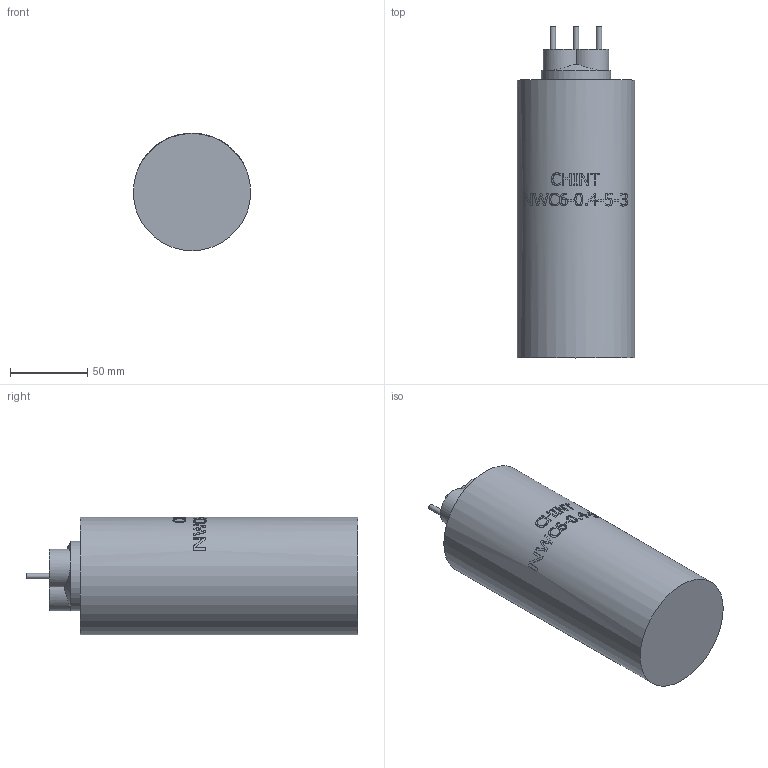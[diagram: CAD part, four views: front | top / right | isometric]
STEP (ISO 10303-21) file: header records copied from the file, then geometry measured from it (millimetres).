
FILE_DESCRIPTION(/* description */ (''),/* implementation_level */ '2;1');
FILE_NAME(/* name */ 'D:\CHINT3\\X2\041A043E043D04340435043D044104300442043E0440044B\X0\\NWC6-0.4-5-3.stp',/* time_stamp */ '2017-12-13T20:52:02+03:00',/* author */ ('RSagdiev'),/* organization */ (''),/* preprocessor_version */ 'ST-DEVELOPER v16.5',/* originating_system */ 'Autodesk Inventor 2017',/* authorisation */ '');
FILE_SCHEMA (('AUTOMOTIVE_DESIGN { 1 0 10303 214 3 1 1 }'));
Length unit declared in the file: millimetre
Products named in the file (1): NWC6-0.4-5-3
Bounding box: 76 x 215 x 76.1 mm (x, y, z)
Volume: 841360.6 mm3; surface area: 58806.9 mm2
Topology: 5 solids, 5 shells, 261 faces, 687 edges, 457 vertices
Faces by surface type: plane 134, bspline 95, cylinder 29, cone 3
Full cylindrical faces by diameter (mm): 3.5 x3, 45 x1, 74 x1, 76 x1
Entity records: 9661 total; most frequent: CARTESIAN_POINT 3669, ORIENTED_EDGE 1360, DIRECTION 982, EDGE_CURVE 680, VERTEX_POINT 456, AXIS2_PLACEMENT_3D 331, LINE 320, VECTOR 320
